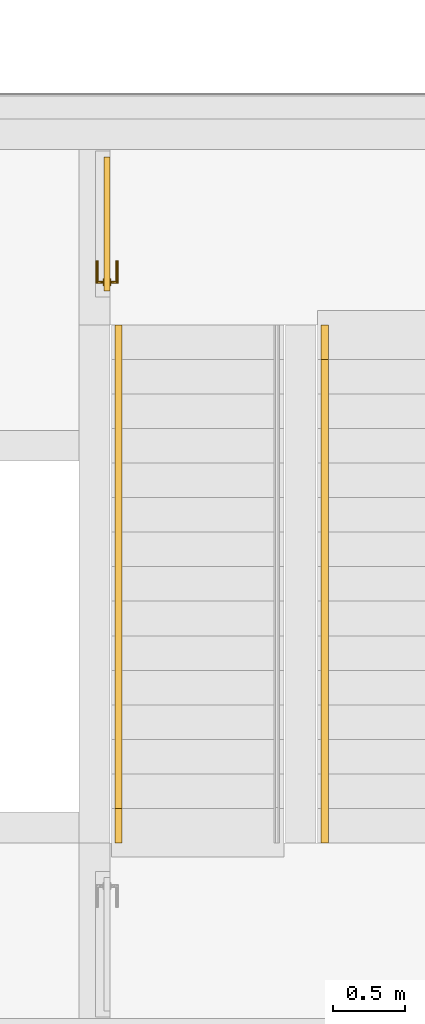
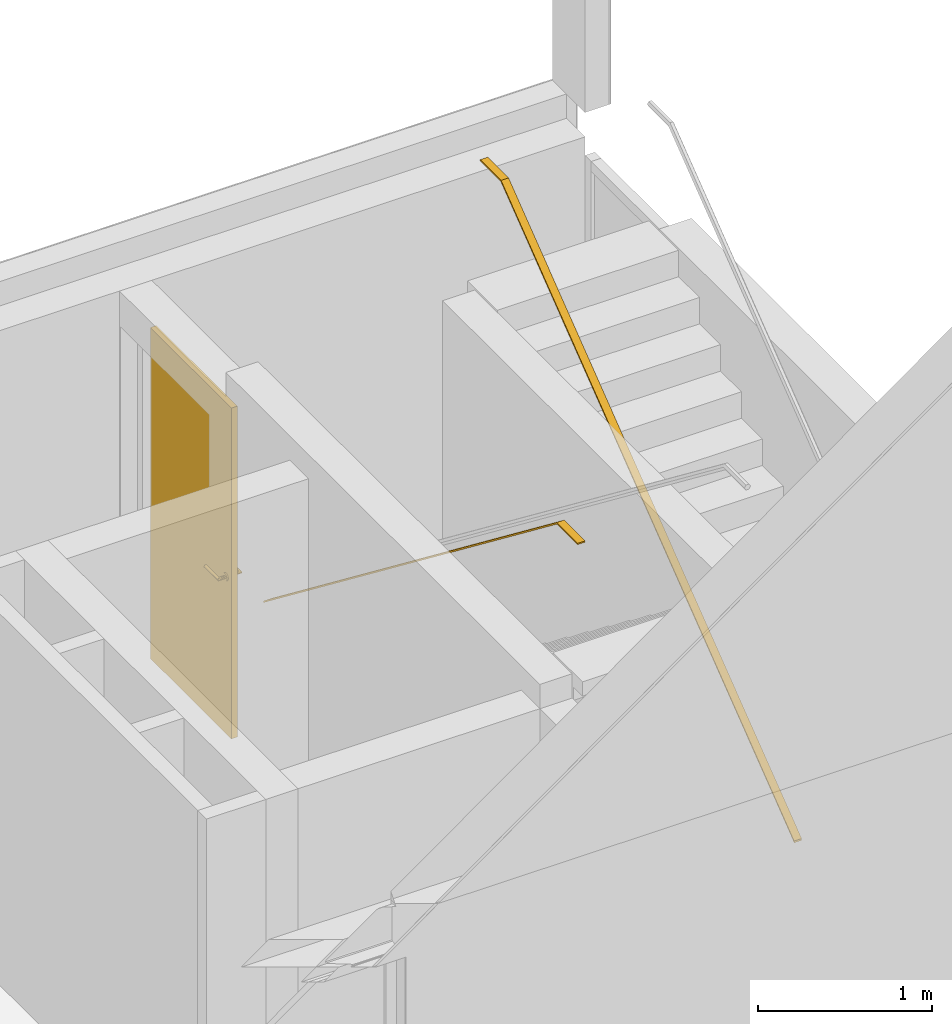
# One storey, part 78 of 99: 2 railings, 1 door, 2 elements without a shape of their own.
"""IFC2X3 building model written with IfcOpenShell, lengths in millimetres."""

from ifc_helpers import new_model, entity, si_unit, converted_unit, derived_unit, money_unit, direction, frame, origin_with_axes, place, context, subcontext, project, spatial, faceted_brep, source, transform, mapped, material, type_object, type_shapes, element, aggregate, save


model = new_model("IFC2X3")

# Units and contexts
model_context = context("Model", 3, precision=0.01, world=origin_with_axes(), true_north=direction((0.0, 1.0)))
body_context = subcontext(model_context, "Body", "Model", "MODEL_VIEW")
ifc_project = project(units=[si_unit("LENGTHUNIT", "METRE", prefix="MILLI"), si_unit("AREAUNIT", "SQUARE_METRE"), si_unit("VOLUMEUNIT", "CUBIC_METRE"), converted_unit("PLANEANGLEUNIT", "DEGREE", entity("IfcPlaneAngleMeasure", 0.0174532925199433), si_unit("PLANEANGLEUNIT", "RADIAN"), dimensions=[0, 0, 0, 0, 0, 0, 0]), money_unit("EUR"), converted_unit("TIMEUNIT", "Year", entity("IfcTimeMeasure", 31557600.0), si_unit("TIMEUNIT", "SECOND"), dimensions=[0, 0, 1, 0, 0, 0, 0]), si_unit("MASSUNIT", "GRAM", prefix="KILO"), si_unit("THERMODYNAMICTEMPERATUREUNIT", "DEGREE_CELSIUS"), si_unit("LUMINOUSINTENSITYUNIT", "LUMEN"), si_unit("ENERGYUNIT", "JOULE", prefix="MEGA"), derived_unit("THERMALCONDUCTANCEUNIT", [(si_unit("POWERUNIT", "WATT"), 1), (si_unit("LENGTHUNIT", "METRE"), -1), (si_unit("THERMODYNAMICTEMPERATUREUNIT", "KELVIN"), -1)]), derived_unit("SPECIFICHEATCAPACITYUNIT", [(si_unit("ENERGYUNIT", "JOULE"), 1), (si_unit("MASSUNIT", "GRAM", prefix="KILO"), -1), (si_unit("THERMODYNAMICTEMPERATUREUNIT", "KELVIN"), -1)]), derived_unit("MASSDENSITYUNIT", [(si_unit("MASSUNIT", "GRAM", prefix="KILO"), 1), (si_unit("VOLUMEUNIT", "CUBIC_METRE"), -1)])], contexts=[model_context])

# Site, building, storey
site_placement = place(None, origin_with_axes())
site = spatial("IfcSite", under=ifc_project, at=site_placement, Name="Site", CompositionType="ELEMENT")
building_placement = place(site_placement, origin_with_axes())
building = spatial("IfcBuilding", under=site, at=building_placement, Name="Naam gebouw", CompositionType="ELEMENT")
storey_placement = place(building_placement, frame((0.0, 0.0, 7650.0), z_axis=(0.0, 0.0, 1.0), x_axis=(1.0, 0.0, 0.0)))
storey = spatial("IfcBuildingStorey", under=building, at=storey_placement, Name="2e verdieping N", CompositionType="ELEMENT", Elevation=7650.0)

# Door
ifc_material_1 = material(Name="<Unnamed>")
door_style = type_object("IfcDoorStyle", Name="NLRS_32_deur stomp dicht_WID:Deur", ConstructionType="NOTDEFINED", OperationType="NOTDEFINED", ParameterTakesPrecedence=False, Sizeable=False)
shared_shape = source(origin_with_axes(), body_context, "Body", "Brep", [
    faceted_brep([(410.0000000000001, 65.96445239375, 1091.33974596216), (407.58819045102, 65.96445239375, 1090.34074173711), (417.5000000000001, 65.96445239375, 1078.34936490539), (410.0000000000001, 74.00000000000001, 1091.33974596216), (407.58819045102, 74.00000000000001, 1090.34074173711), (411.4704761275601, 65.96445239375, 1075.85185434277), (422.6776695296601, 65.96445239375, 1082.32233047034), (412.0710678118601, 65.96445239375, 1092.92893218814), (412.0710678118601, 74.00000000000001, 1092.92893218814), (417.5000000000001, 74.00000000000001, 1078.34936490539), (405.0, 74.00000000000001, 1090.0), (405.0, 65.96445239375, 1090.0), (411.4704761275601, 74.00000000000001, 1075.85185434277), (422.6776695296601, 74.00000000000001, 1082.32233047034), (413.66025403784, 74.00000000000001, 1095.0), (413.66025403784, 65.96445239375, 1095.0), (402.41180954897, 65.96445239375, 1090.34074173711), (402.41180954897, 74.00000000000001, 1090.34074173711), (405.0, 65.96445239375, 1075.0), (405.0, 74.00000000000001, 1075.0), (426.6506350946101, 65.96445239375, 1087.5), (426.6506350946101, 74.00000000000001, 1087.5), (414.65925826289, 65.96445239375, 1097.41180954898), (414.65925826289, 74.00000000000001, 1097.41180954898), (400.0, 74.00000000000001, 1091.33974596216), (400.0, 65.96445239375, 1091.33974596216), (398.52952387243, 65.96445239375, 1075.85185434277), (398.52952387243, 74.00000000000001, 1075.85185434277), (429.14814565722, 65.96445239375, 1093.52952387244), (429.14814565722, 74.00000000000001, 1093.52952387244), (415.0000000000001, 65.96445239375, 1100.0), (415.0000000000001, 74.00000000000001, 1100.0), (397.92893218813, 74.00000000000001, 1092.92893218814), (397.92893218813, 65.96445239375, 1092.92893218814), (392.5, 65.96445239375, 1078.34936490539), (392.5, 74.00000000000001, 1078.34936490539), (430.0000000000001, 65.96445239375, 1100.0), (430.0000000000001, 74.00000000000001, 1100.0), (414.65925826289, 65.96445239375, 1102.58819045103), (414.65925826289, 74.00000000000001, 1102.58819045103), (396.3397459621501, 74.00000000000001, 1095.0), (396.3397459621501, 65.96445239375, 1095.0), (387.32233047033, 65.96445239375, 1082.32233047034), (387.32233047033, 74.00000000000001, 1082.32233047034), (429.14814565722, 74.00000000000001, 1106.47047612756), (429.14814565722, 65.96445239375, 1106.47047612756), (413.66025403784, 65.96445239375, 1105.0), (413.66025403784, 74.00000000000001, 1105.0), (395.34074173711, 65.96445239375, 1097.41180954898), (395.34074173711, 74.00000000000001, 1097.41180954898), (383.3493649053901, 74.00000000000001, 1087.5), (383.3493649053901, 65.96445239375, 1087.5), (426.6506350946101, 74.00000000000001, 1112.5), (426.6506350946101, 65.96445239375, 1112.5), (412.0710678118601, 74.00000000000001, 1107.07106781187), (412.0710678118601, 65.96445239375, 1107.07106781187), (380.8518543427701, 74.00000000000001, 1093.52952387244), (395.0, 65.96445239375, 1100.0), (395.0, 74.00000000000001, 1100.0), (380.8518543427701, 65.96445239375, 1093.52952387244), (422.6776695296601, 74.00000000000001, 1117.67766952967), (422.6776695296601, 65.96445239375, 1117.67766952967), (410.0000000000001, 65.96445239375, 1108.66025403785), (410.0000000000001, 74.00000000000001, 1108.66025403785), (380.0000000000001, 74.00000000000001, 1100.0), (395.34074173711, 74.00000000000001, 1102.58819045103), (395.34074173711, 65.96445239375, 1102.58819045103), (380.0000000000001, 65.96445239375, 1100.0), (417.5000000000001, 65.96445239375, 1121.65063509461), (417.5000000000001, 74.00000000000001, 1121.65063509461), (407.58819045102, 65.96445239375, 1109.65925826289), (407.58819045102, 74.00000000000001, 1109.65925826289), (380.8518543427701, 74.00000000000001, 1106.47047612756), (396.3397459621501, 74.00000000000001, 1105.0), (396.3397459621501, 65.96445239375, 1105.0), (380.8518543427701, 65.96445239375, 1106.47047612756), (411.4704761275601, 65.96445239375, 1124.14814565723), (411.4704761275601, 74.00000000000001, 1124.14814565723), (405.0, 65.96445239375, 1110.0), (405.0, 74.00000000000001, 1110.0), (383.3493649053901, 74.00000000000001, 1112.5), (397.92893218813, 74.00000000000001, 1107.07106781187), (397.92893218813, 65.96445239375, 1107.07106781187), (383.3493649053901, 65.96445239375, 1112.5), (405.0, 65.96445239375, 1125.0), (405.0, 74.00000000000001, 1125.0), (402.41180954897, 65.96445239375, 1109.65925826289), (402.41180954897, 74.00000000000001, 1109.65925826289), (387.32233047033, 74.00000000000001, 1117.67766952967), (400.0, 65.96445239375, 1108.66025403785), (400.0, 74.00000000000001, 1108.66025403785), (387.32233047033, 65.96445239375, 1117.67766952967), (398.52952387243, 74.00000000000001, 1124.14814565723), (398.52952387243, 65.96445239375, 1124.14814565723), (392.5, 74.00000000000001, 1121.65063509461), (392.5, 65.96445239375, 1121.65063509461)], [[[0, 1, 2]], [[1, 0, 3, 4]], [[1, 5, 2]], [[6, 0, 2]], [[0, 7, 8, 3]], [[3, 9, 4]], [[10, 11, 1, 4]], [[5, 1, 11]], [[9, 2, 5, 12]], [[0, 6, 7]], [[9, 13, 6, 2]], [[14, 8, 7, 15]], [[13, 3, 8]], [[13, 9, 3]], [[12, 4, 9]], [[16, 11, 10, 17]], [[4, 12, 10]], [[5, 11, 18]], [[12, 5, 18, 19]], [[6, 20, 7]], [[20, 6, 13, 21]], [[21, 8, 14]], [[7, 20, 15]], [[22, 23, 14, 15]], [[13, 8, 21]], [[16, 18, 11]], [[19, 17, 10]], [[16, 17, 24, 25]], [[10, 12, 19]], [[18, 26, 27, 19]], [[28, 20, 21, 29]], [[21, 14, 29]], [[22, 15, 20]], [[30, 31, 23, 22]], [[23, 29, 14]], [[18, 16, 26]], [[17, 19, 27]], [[17, 27, 24]], [[25, 24, 32, 33]], [[16, 25, 26]], [[26, 34, 35, 27]], [[28, 22, 20]], [[36, 28, 29, 37]], [[30, 38, 39, 31]], [[23, 31, 37]], [[28, 30, 22]], [[37, 29, 23]], [[27, 35, 24]], [[32, 24, 35]], [[32, 40, 41, 33]], [[33, 34, 25]], [[34, 26, 25]], [[34, 42, 43, 35]], [[30, 28, 36]], [[44, 45, 36, 37]], [[38, 30, 36]], [[38, 46, 47, 39]], [[44, 31, 39]], [[31, 44, 37]], [[32, 35, 43]], [[43, 40, 32]], [[48, 41, 40, 49]], [[41, 42, 33]], [[34, 33, 42]], [[50, 43, 42, 51]], [[52, 53, 45, 44]], [[36, 45, 38]], [[38, 45, 46]], [[54, 47, 46, 55]], [[39, 47, 52]], [[44, 39, 52]], [[43, 50, 40]], [[48, 51, 41]], [[56, 49, 40]], [[57, 48, 49, 58]], [[51, 42, 41]], [[50, 51, 59, 56]], [[52, 60, 61, 53]], [[53, 46, 45]], [[54, 52, 47]], [[53, 55, 46]], [[62, 63, 54, 55]], [[56, 40, 50]], [[59, 51, 48]], [[64, 49, 56]], [[59, 48, 57]], [[64, 58, 49]], [[57, 58, 65, 66]], [[56, 59, 67, 64]], [[60, 52, 54]], [[68, 61, 60, 69]], [[61, 55, 53]], [[70, 71, 63, 62]], [[63, 60, 54]], [[61, 62, 55]], [[59, 57, 67]], [[72, 58, 64]], [[72, 65, 58]], [[66, 65, 73, 74]], [[67, 57, 66]], [[67, 75, 72, 64]], [[61, 68, 62]], [[60, 63, 69]], [[76, 68, 69, 77]], [[70, 78, 79, 71]], [[63, 71, 69]], [[62, 68, 70]], [[72, 80, 65]], [[65, 80, 73]], [[73, 81, 82, 74]], [[75, 66, 74]], [[67, 66, 75]], [[75, 83, 80, 72]], [[76, 70, 68]], [[71, 77, 69]], [[84, 76, 77, 85]], [[70, 76, 78]], [[79, 78, 86, 87]], [[77, 71, 79]], [[80, 88, 73]], [[73, 88, 81]], [[89, 82, 81, 90]], [[91, 74, 82]], [[75, 74, 83]], [[83, 91, 88, 80]], [[78, 76, 84]], [[77, 79, 85]], [[92, 93, 84, 85]], [[84, 86, 78]], [[86, 89, 90, 87]], [[87, 85, 79]], [[94, 81, 88]], [[82, 89, 95]], [[81, 94, 90]], [[91, 83, 74]], [[82, 95, 91]], [[94, 88, 91, 95]], [[94, 95, 93, 92]], [[86, 84, 93]], [[85, 87, 92]], [[86, 93, 89]], [[87, 90, 92]], [[93, 95, 89]], [[94, 92, 90]]]),
    faceted_brep([(410.0000000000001, 74.00000000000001, 1091.33974596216), (407.58819045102, 74.00000000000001, 1090.34074173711), (405.0, 74.00000000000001, 1090.0), (402.41180954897, 74.00000000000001, 1090.34074173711), (400.0, 74.00000000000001, 1091.33974596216), (397.92893218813, 74.00000000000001, 1092.92893218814), (396.3397459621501, 74.00000000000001, 1095.0), (395.34074173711, 74.00000000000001, 1097.41180954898), (395.0, 74.00000000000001, 1100.0), (395.34074173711, 74.00000000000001, 1102.58819045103), (396.3397459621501, 74.00000000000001, 1105.0), (397.92893218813, 74.00000000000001, 1107.07106781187), (400.0, 74.00000000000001, 1108.66025403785), (402.41180954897, 74.00000000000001, 1109.65925826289), (405.0, 74.00000000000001, 1110.0), (407.58819045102, 74.00000000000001, 1109.65925826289), (410.0000000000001, 74.00000000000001, 1108.66025403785), (412.0710678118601, 74.00000000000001, 1107.07106781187), (413.66025403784, 74.00000000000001, 1105.0), (414.65925826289, 74.00000000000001, 1102.58819045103), (415.0000000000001, 74.00000000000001, 1100.0), (414.65925826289, 74.00000000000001, 1097.41180954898), (413.66025403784, 74.00000000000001, 1095.0), (412.0710678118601, 74.00000000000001, 1092.92893218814), (405.0, 24.0, 1090.0), (402.41180954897, 26.58819045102, 1090.34074173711), (400.0, 29.0, 1091.33974596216), (397.92893218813, 31.07106781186, 1092.92893218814), (396.3397459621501, 32.66025403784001, 1095.0), (395.34074173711, 33.65925826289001, 1097.41180954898), (395.0, 34.0, 1100.0), (395.34074173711, 33.65925826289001, 1102.58819045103), (396.3397459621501, 32.66025403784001, 1105.0), (397.92893218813, 31.07106781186, 1107.07106781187), (400.0, 29.0, 1108.66025403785), (402.41180954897, 26.58819045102, 1109.65925826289), (405.0, 24.0, 1110.0), (407.58819045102, 21.41180954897, 1109.65925826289), (412.0710678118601, 16.92893218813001, 1107.07106781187), (414.65925826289, 14.34074173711, 1102.58819045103), (415.0000000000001, 14.0, 1100.0), (414.65925826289, 14.34074173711, 1097.41180954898), (412.0710678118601, 16.92893218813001, 1092.92893218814), (407.58819045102, 21.41180954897, 1090.34074173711), (255.0, 32.66025403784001, 1095.0), (255.0, 33.65925826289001, 1097.41180954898), (255.0, 34.0, 1100.0), (255.0, 33.65925826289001, 1102.58819045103), (255.0, 32.66025403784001, 1105.0), (410.0000000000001, 19.0, 1108.66025403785), (413.66025403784, 15.33974596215, 1105.0), (255.0, 14.34074173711, 1102.58819045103), (255.0, 14.0, 1100.0), (255.0, 14.34074173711, 1097.41180954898), (413.66025403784, 15.33974596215, 1095.0), (410.0000000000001, 19.0, 1091.33974596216), (255.0, 26.58819045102, 1090.34074173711), (255.0, 24.0, 1090.0), (255.0, 29.0, 1091.33974596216), (255.0, 31.07106781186, 1092.92893218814), (255.0, 21.41180954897, 1090.34074173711), (255.0, 19.0, 1091.33974596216), (255.0, 16.92893218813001, 1092.92893218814), (255.0, 15.33974596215, 1095.0), (255.0, 15.33974596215, 1105.0), (255.0, 16.92893218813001, 1107.07106781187), (255.0, 19.0, 1108.66025403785), (255.0, 21.41180954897, 1109.65925826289), (255.0, 24.0, 1110.0), (255.0, 26.58819045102, 1109.65925826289), (255.0, 29.0, 1108.66025403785), (255.0, 31.07106781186, 1107.07106781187)], [[[0, 1, 2, 3, 4, 5, 6, 7, 8, 9, 10, 11, 12, 13, 14, 15, 16, 17, 18, 19, 20, 21, 22, 23]], [[24, 1, 0]], [[25, 2, 1]], [[3, 2, 26]], [[27, 4, 3]], [[5, 4, 28]], [[5, 28, 6]], [[28, 29, 7, 6]], [[29, 30, 8, 7]], [[30, 31, 9, 8]], [[31, 32, 10, 9]], [[10, 32, 11]], [[12, 11, 32]], [[33, 13, 12]], [[13, 34, 14]], [[14, 35, 15]], [[16, 15, 36]], [[16, 36, 17]], [[17, 37, 18]], [[19, 18, 38]], [[20, 19, 39, 40]], [[20, 40, 41, 21]], [[42, 22, 21]], [[23, 22, 43]], [[0, 23, 24]], [[1, 24, 25]], [[25, 26, 2]], [[26, 27, 3]], [[27, 28, 4]], [[44, 45, 29, 28]], [[45, 46, 30, 29]], [[46, 47, 31, 30]], [[47, 48, 32, 31]], [[32, 33, 12]], [[33, 34, 13]], [[14, 34, 35]], [[35, 36, 15]], [[37, 17, 36]], [[49, 18, 37]], [[38, 18, 49]], [[38, 50, 19]], [[19, 50, 39]], [[51, 52, 40, 39]], [[52, 53, 41, 40]], [[54, 21, 41]], [[22, 42, 55]], [[54, 42, 21]], [[22, 55, 43]], [[23, 43, 24]], [[56, 25, 24, 57]], [[56, 58, 26, 25]], [[58, 59, 27, 26]], [[59, 44, 28, 27]], [[57, 60, 61, 62, 63, 53, 52, 51, 64, 65, 66, 67, 68, 69, 70, 71, 48, 47, 46, 45, 44, 59, 58, 56]], [[48, 71, 33, 32]], [[71, 70, 34, 33]], [[70, 69, 35, 34]], [[68, 36, 35, 69]], [[37, 36, 68, 67]], [[67, 66, 49, 37]], [[66, 65, 38, 49]], [[65, 64, 50, 38]], [[64, 51, 39, 50]], [[53, 63, 54, 41]], [[62, 61, 55, 42]], [[63, 62, 42, 54]], [[61, 60, 43, 55]], [[60, 57, 24, 43]]]),
    faceted_brep([(417.4999999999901, 122.03554760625, 1078.34936490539), (407.58819045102, 122.03554760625, 1090.34074173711), (410.0000000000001, 122.03554760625, 1091.33974596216), (411.4704761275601, 122.03554760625, 1075.85185434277), (410.0000000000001, 114.0, 1091.33974596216), (407.58819045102, 114.0, 1090.34074173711), (422.6776695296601, 122.03554760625, 1082.32233047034), (411.4704761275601, 114.0, 1075.85185434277), (417.4999999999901, 114.0, 1078.34936490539), (405.0, 122.03554760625, 1090.0), (412.0710678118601, 114.0, 1092.92893218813), (412.0710678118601, 122.03554760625, 1092.92893218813), (405.0, 114.0, 1090.0), (422.6776695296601, 114.0, 1082.32233047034), (405.0, 114.0, 1075.0), (405.0, 122.03554760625, 1075.0), (413.66025403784, 122.03554760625, 1095.0), (413.66025403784, 114.0, 1095.0), (402.41180954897, 114.0, 1090.34074173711), (402.41180954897, 122.03554760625, 1090.34074173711), (426.6506350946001, 122.03554760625, 1087.5), (426.6506350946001, 114.0, 1087.5), (398.52952387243, 114.0, 1075.85185434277), (398.52952387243, 122.03554760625, 1075.85185434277), (414.65925826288, 114.0, 1097.41180954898), (414.65925826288, 122.03554760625, 1097.41180954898), (400.0, 122.03554760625, 1091.33974596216), (400.0, 114.0, 1091.33974596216), (429.14814565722, 114.0, 1093.52952387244), (429.14814565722, 122.03554760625, 1093.52952387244), (392.4999999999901, 114.0, 1078.34936490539), (392.4999999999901, 122.03554760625, 1078.34936490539), (415.0000000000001, 114.0, 1100.0), (415.0000000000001, 122.03554760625, 1100.0), (397.92893218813, 122.03554760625, 1092.92893218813), (397.92893218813, 114.0, 1092.92893218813), (430.0000000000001, 122.03554760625, 1100.0), (430.0000000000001, 114.0, 1100.0), (387.32233047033, 114.0, 1082.32233047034), (387.32233047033, 122.03554760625, 1082.32233047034), (414.65925826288, 114.0, 1102.58819045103), (414.65925826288, 122.03554760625, 1102.58819045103), (396.3397459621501, 122.03554760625, 1095.0), (396.3397459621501, 114.0, 1095.0), (429.14814565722, 122.03554760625, 1106.47047612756), (429.14814565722, 114.0, 1106.47047612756), (383.3493649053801, 114.0, 1087.5), (383.3493649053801, 122.03554760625, 1087.5), (413.66025403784, 114.0, 1105.0), (413.66025403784, 122.03554760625, 1105.0), (395.3407417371, 122.03554760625, 1097.41180954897), (395.3407417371, 114.0, 1097.41180954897), (426.6506350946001, 122.03554760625, 1112.5), (426.6506350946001, 114.0, 1112.5), (380.8518543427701, 114.0, 1093.52952387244), (380.8518543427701, 122.03554760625, 1093.52952387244), (412.0710678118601, 122.03554760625, 1107.07106781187), (412.0710678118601, 114.0, 1107.07106781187), (395.0, 122.03554760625, 1100.0), (395.0, 114.0, 1100.0), (422.6776695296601, 122.03554760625, 1117.67766952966), (422.6776695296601, 114.0, 1117.67766952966), (380.0000000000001, 114.0, 1100.0), (380.0000000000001, 122.03554760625, 1100.0), (410.0000000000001, 114.0, 1108.66025403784), (410.0000000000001, 122.03554760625, 1108.66025403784), (395.3407417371, 122.03554760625, 1102.58819045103), (395.3407417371, 114.0, 1102.58819045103), (417.4999999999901, 114.0, 1121.65063509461), (417.4999999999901, 122.03554760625, 1121.65063509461), (380.8518543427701, 114.0, 1106.47047612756), (380.8518543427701, 122.03554760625, 1106.47047612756), (407.58819045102, 114.0, 1109.65925826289), (407.58819045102, 122.03554760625, 1109.65925826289), (396.3397459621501, 122.03554760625, 1105.0), (396.3397459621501, 114.0, 1105.0), (411.4704761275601, 114.0, 1124.14814565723), (411.4704761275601, 122.03554760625, 1124.14814565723), (383.3493649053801, 114.0, 1112.5), (383.3493649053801, 122.03554760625, 1112.5), (405.0, 114.0, 1110.0), (405.0, 122.03554760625, 1110.0), (397.92893218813, 122.03554760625, 1107.07106781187), (397.92893218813, 114.0, 1107.07106781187), (405.0, 122.03554760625, 1125.0), (405.0, 114.0, 1125.0), (387.32233047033, 114.0, 1117.67766952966), (387.32233047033, 122.03554760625, 1117.67766952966), (402.41180954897, 114.0, 1109.65925826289), (402.41180954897, 122.03554760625, 1109.65925826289), (400.0, 122.03554760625, 1108.66025403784), (400.0, 114.0, 1108.66025403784), (398.52952387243, 122.03554760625, 1124.14814565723), (398.52952387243, 114.0, 1124.14814565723), (392.4999999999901, 114.0, 1121.65063509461), (392.4999999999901, 122.03554760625, 1121.65063509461)], [[[0, 1, 2]], [[0, 3, 1]], [[4, 2, 1, 5]], [[0, 2, 6]], [[7, 3, 0, 8]], [[9, 1, 3]], [[10, 11, 2, 4]], [[5, 1, 9, 12]], [[5, 8, 4]], [[11, 6, 2]], [[6, 13, 8, 0]], [[14, 15, 3, 7]], [[8, 5, 7]], [[15, 9, 3]], [[16, 11, 10, 17]], [[10, 4, 13]], [[18, 12, 9, 19]], [[12, 7, 5]], [[4, 8, 13]], [[11, 20, 6]], [[21, 13, 6, 20]], [[22, 23, 15, 14]], [[14, 7, 12]], [[9, 15, 19]], [[16, 20, 11]], [[17, 10, 21]], [[16, 17, 24, 25]], [[21, 10, 13]], [[12, 18, 14]], [[26, 27, 18, 19]], [[28, 21, 20, 29]], [[22, 30, 31, 23]], [[23, 19, 15]], [[22, 14, 18]], [[20, 16, 25]], [[28, 17, 21]], [[17, 28, 24]], [[25, 24, 32, 33]], [[34, 35, 27, 26]], [[27, 22, 18]], [[23, 26, 19]], [[20, 25, 29]], [[28, 29, 36, 37]], [[27, 30, 22]], [[30, 38, 39, 31]], [[26, 23, 31]], [[24, 28, 37]], [[37, 32, 24]], [[40, 41, 33, 32]], [[25, 33, 29]], [[34, 42, 43, 35]], [[30, 27, 35]], [[26, 31, 34]], [[36, 29, 33]], [[37, 36, 44, 45]], [[38, 30, 35]], [[39, 38, 46, 47]], [[39, 34, 31]], [[37, 45, 32]], [[48, 49, 41, 40]], [[36, 33, 41]], [[40, 32, 45]], [[34, 39, 42]], [[43, 42, 50, 51]], [[35, 43, 38]], [[41, 44, 36]], [[45, 44, 52, 53]], [[43, 46, 38]], [[54, 55, 47, 46]], [[42, 39, 47]], [[56, 49, 48, 57]], [[49, 44, 41]], [[53, 48, 40]], [[53, 40, 45]], [[42, 47, 50]], [[51, 50, 58, 59]], [[43, 51, 54]], [[44, 49, 52]], [[60, 61, 53, 52]], [[46, 43, 54]], [[62, 63, 55, 54]], [[50, 47, 55]], [[49, 56, 52]], [[48, 53, 57]], [[56, 57, 64, 65]], [[58, 50, 55]], [[66, 67, 59, 58]], [[51, 59, 62]], [[54, 51, 62]], [[68, 61, 60, 69]], [[57, 53, 61]], [[52, 56, 60]], [[70, 71, 63, 62]], [[63, 58, 55]], [[57, 61, 64]], [[65, 64, 72, 73]], [[56, 65, 60]], [[74, 75, 67, 66]], [[59, 67, 70]], [[66, 58, 63]], [[62, 59, 70]], [[68, 64, 61]], [[65, 69, 60]], [[76, 68, 69, 77]], [[70, 78, 79, 71]], [[71, 66, 63]], [[68, 72, 64]], [[72, 80, 81, 73]], [[73, 69, 65]], [[74, 82, 83, 75]], [[75, 78, 67]], [[74, 66, 71]], [[67, 78, 70]], [[68, 76, 72]], [[69, 73, 77]], [[76, 77, 84, 85]], [[78, 86, 87, 79]], [[79, 74, 71]], [[80, 72, 76]], [[88, 89, 81, 80]], [[81, 77, 73]], [[82, 74, 87]], [[83, 82, 90, 91]], [[83, 86, 75]], [[75, 86, 78]], [[84, 77, 81]], [[85, 84, 92, 93]], [[85, 80, 76]], [[87, 86, 94, 95]], [[74, 79, 87]], [[91, 90, 89, 88]], [[81, 89, 84]], [[80, 85, 88]], [[87, 95, 82]], [[95, 90, 82]], [[91, 94, 83]], [[86, 83, 94]], [[92, 84, 89]], [[93, 92, 95, 94]], [[93, 88, 85]], [[90, 92, 89]], [[93, 91, 88]], [[90, 95, 92]], [[91, 93, 94]]]),
    faceted_brep([(405.0, 114.0, 1090.0), (407.58819045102, 114.0, 1090.34074173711), (410.0000000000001, 114.0, 1091.33974596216), (412.0710678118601, 114.0, 1092.92893218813), (413.66025403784, 114.0, 1095.0), (414.65925826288, 114.0, 1097.41180954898), (415.0000000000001, 114.0, 1100.0), (414.65925826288, 114.0, 1102.58819045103), (413.66025403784, 114.0, 1105.0), (412.0710678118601, 114.0, 1107.07106781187), (410.0000000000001, 114.0, 1108.66025403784), (407.58819045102, 114.0, 1109.65925826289), (405.0, 114.0, 1110.0), (402.41180954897, 114.0, 1109.65925826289), (400.0, 114.0, 1108.66025403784), (397.92893218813, 114.0, 1107.07106781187), (396.3397459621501, 114.0, 1105.0), (395.3407417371, 114.0, 1102.58819045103), (395.0, 114.0, 1100.0), (395.3407417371, 114.0, 1097.41180954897), (396.3397459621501, 114.0, 1095.0), (397.92893218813, 114.0, 1092.92893218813), (400.0, 114.0, 1091.33974596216), (402.41180954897, 114.0, 1090.34074173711), (402.41180954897, 161.41180954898, 1090.34074173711), (405.0, 164.0, 1090.0), (407.58819045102, 166.58819045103, 1090.34074173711), (412.0710678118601, 171.07106781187, 1092.92893218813), (414.65925826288, 173.65925826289, 1097.41180954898), (415.0000000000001, 174.0, 1100.0), (414.65925826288, 173.65925826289, 1102.58819045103), (412.0710678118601, 171.07106781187, 1107.07106781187), (407.58819045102, 166.58819045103, 1109.65925826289), (405.0, 164.0, 1110.0), (402.41180954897, 161.41180954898, 1109.65925826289), (400.0, 159.0, 1108.66025403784), (397.92893218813, 156.92893218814, 1107.07106781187), (396.3397459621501, 155.33974596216, 1105.0), (395.3407417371, 154.3407417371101, 1102.58819045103), (395.0, 154.0, 1100.0), (395.3407417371, 154.3407417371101, 1097.41180954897), (396.3397459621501, 155.33974596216, 1095.0), (397.92893218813, 156.92893218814, 1092.92893218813), (400.0, 159.0, 1091.33974596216), (410.0000000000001, 169.0, 1091.33974596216), (413.66025403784, 172.66025403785, 1095.0), (255.0, 173.65925826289, 1097.41180954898), (255.0, 174.0, 1100.0), (255.0, 173.65925826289, 1102.58819045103), (413.66025403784, 172.66025403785, 1105.0), (410.0000000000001, 169.0, 1108.66025403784), (255.0, 155.33974596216, 1105.0), (255.0, 154.3407417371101, 1102.58819045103), (255.0, 154.0, 1100.0), (255.0, 154.3407417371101, 1097.41180954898), (255.0, 155.33974596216, 1095.0), (255.0, 159.0, 1091.33974596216), (255.0, 161.41180954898, 1090.34074173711), (255.0, 164.0, 1090.0), (255.0, 166.58819045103, 1090.34074173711), (255.0, 169.0, 1091.33974596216), (255.0, 171.07106781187, 1092.92893218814), (255.0, 172.66025403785, 1095.0), (255.0, 156.92893218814, 1092.92893218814), (255.0, 156.92893218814, 1107.07106781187), (255.0, 159.0, 1108.66025403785), (255.0, 161.41180954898, 1109.65925826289), (255.0, 164.0, 1110.0), (255.0, 166.58819045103, 1109.65925826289), (255.0, 169.0, 1108.66025403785), (255.0, 171.07106781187, 1107.07106781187), (255.0, 172.66025403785, 1105.0)], [[[0, 1, 2, 3, 4, 5, 6, 7, 8, 9, 10, 11, 12, 13, 14, 15, 16, 17, 18, 19, 20, 21, 22, 23]], [[1, 0, 24]], [[2, 1, 25]], [[25, 3, 2]], [[26, 4, 3]], [[5, 4, 27]], [[28, 29, 6, 5]], [[29, 30, 7, 6]], [[31, 8, 7]], [[8, 32, 9]], [[9, 33, 10]], [[33, 11, 10]], [[11, 34, 12]], [[12, 35, 13]], [[14, 13, 36]], [[37, 15, 14]], [[15, 37, 16]], [[16, 37, 38, 17]], [[18, 17, 38, 39]], [[19, 18, 39, 40]], [[20, 19, 40, 41]], [[20, 41, 21]], [[41, 22, 21]], [[23, 22, 42]], [[43, 0, 23]], [[0, 43, 24]], [[24, 25, 1]], [[25, 26, 3]], [[26, 44, 4]], [[44, 27, 4]], [[5, 27, 45]], [[28, 46, 47, 29]], [[28, 5, 45]], [[30, 29, 47, 48]], [[30, 49, 7]], [[50, 8, 31]], [[7, 49, 31]], [[32, 8, 50]], [[33, 9, 32]], [[11, 33, 34]], [[34, 35, 12]], [[13, 35, 36]], [[14, 36, 37]], [[38, 37, 51, 52]], [[39, 38, 52, 53]], [[39, 53, 54, 40]], [[40, 54, 55, 41]], [[22, 41, 42]], [[23, 42, 43]], [[43, 56, 57, 24]], [[58, 25, 24, 57]], [[26, 25, 58, 59]], [[26, 59, 60, 44]], [[44, 60, 61, 27]], [[27, 61, 62, 45]], [[45, 62, 46, 28]], [[60, 59, 58, 57, 56, 63, 55, 54, 53, 52, 51, 64, 65, 66, 67, 68, 69, 70, 71, 48, 47, 46, 62, 61]], [[49, 30, 48, 71]], [[50, 31, 70, 69]], [[31, 49, 71, 70]], [[32, 50, 69, 68]], [[68, 67, 33, 32]], [[34, 33, 67, 66]], [[35, 34, 66, 65]], [[36, 35, 65, 64]], [[37, 36, 64, 51]], [[41, 55, 63, 42]], [[42, 63, 56, 43]]]),
    faceted_brep([(465.0, 114.0, 0.0), (465.0, 74.00000000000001, 0.0), (-465.0, 74.00000000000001, 0.0), (-465.0, 114.0, 0.0), (465.0, 114.0, 2315.0), (465.0, 74.00000000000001, 2315.0), (-465.0, 74.00000000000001, 2315.0), (-465.0, 114.0, 2315.0)], [[[0, 1, 2, 3]], [[4, 5, 1, 0]], [[5, 6, 2, 1]], [[6, 7, 3, 2]], [[7, 4, 0, 3]], [[4, 7, 6, 5]]]),
])
type_shapes(door_style, [shared_shape])
door_placement = place(storey_placement, frame((33599.00000004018, 38448.91242636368, -1729.99999999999), z_axis=(0.0, 0.0, 1.0), x_axis=(0.0, -1.0, 0.0)))
element("IfcDoor", 1, at=door_placement, inside=storey, type_object=door_style, material=ifc_material_1, Name="NLRS_32_deur stomp dicht_WID:Deur", ObjectType="DOOR", context=body_context, shape_type="MappedRepresentation", body=[
    mapped(shared_shape, transform((0.0, 0.0, 0.0))),
])

# Stair, railing
stair_1_placement = place(storey_placement, frame((0.0, 0.0, -7650.0), z_axis=(0.0, 0.0, 1.0), x_axis=(1.0, 0.0, 0.0)))
stair_1 = element("IfcStair", 2, at=stair_1_placement, inside=storey, Name="Precast Stair:Stair", ObjectType="Precast Stair:24_trap - prefab", ShapeType="NOTDEFINED")
ifc_material_2 = material(Name="baluster_staal")
railing_type = type_object("IfcRailingType", Name="Railing:44_3B_leuning - staal 50x10mm", PredefinedType="NOTDEFINED")
railing_1_placement = place(stair_1_placement, frame((35232.0000000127, 34145.91242629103, 6992.049041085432), z_axis=(0.0, 0.0, 1.0), x_axis=(0.0, 1.0, 0.0)))
railing_1 = element("IfcRailing", 3, at=railing_1_placement, type_object=railing_type, material=ifc_material_2, Name="Railing:44_3B_leuning - staal 50x10mm", PredefinedType="NOTDEFINED", context=body_context, shape_type="Brep", body=[
    faceted_brep([(0.0, 50.0, 12.61762558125), (0.0, 50.0, 0.0), (0.0, 0.0, 0.0), (0.0, 0.0, 12.61762558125), (3360.0, 50.0, 2597.95095891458), (3363.40196826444, 50.0, 2587.95095891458), (3363.40196826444, 0.0, 2587.95095891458), (3360.0, 0.0, 2597.95095891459), (3600.0, 50.0, 2597.95095891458), (3600.0, 50.0, 2587.95095891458), (3600.0, 0.0, 2587.95095891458), (3600.0, 0.0, 2597.95095891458)], [[[0, 1, 2, 3]], [[1, 0, 4, 5]], [[2, 1, 5, 6]], [[3, 2, 6, 7]], [[0, 3, 7, 4]], [[5, 4, 8, 9]], [[6, 5, 9, 10]], [[7, 6, 10, 11]], [[4, 7, 11, 8]], [[8, 11, 10, 9]]]),
])
aggregate(stair_1, [railing_1])

stair_2_placement = place(storey_placement, frame((0.0, 0.0, -7650.0), z_axis=(0.0, 0.0, 1.0), x_axis=(1.0, 0.0, 0.0)))
stair_2 = element("IfcStair", 4, at=stair_2_placement, inside=storey, Name="Precast Stair:Stair", ObjectType="Precast Stair:24_trap - prefab", ShapeType="NOTDEFINED")
railing_2_placement = place(stair_2_placement, frame((33798.00000006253, 34145.91242629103, 6992.049041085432), z_axis=(0.0, 0.0, 1.0), x_axis=(0.0, 1.0, 0.0)))
railing_2 = element("IfcRailing", 5, at=railing_2_placement, type_object=railing_type, material=ifc_material_2, Name="Railing:44_3B_leuning - staal 50x10mm", PredefinedType="NOTDEFINED", context=body_context, shape_type="Brep", body=[
    faceted_brep([(3600.0, 50.0, 12.61762558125), (3600.0, 0.0, 12.61762558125), (3600.0, 0.0, 0.0), (3600.0, 50.0, 0.0), (240.0, 50.0, 2597.95095891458), (240.0, 0.0, 2597.95095891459), (236.5980317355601, 0.0, 2587.95095891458), (236.5980317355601, 50.0, 2587.95095891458), (0.0, 50.0, 2597.95095891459), (0.0, 0.0, 2597.95095891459), (0.0, 0.0, 2587.95095891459), (0.0, 50.0, 2587.95095891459)], [[[0, 1, 2, 3]], [[1, 0, 4, 5]], [[2, 1, 5, 6]], [[3, 2, 6, 7]], [[0, 3, 7, 4]], [[5, 4, 8, 9]], [[6, 5, 9, 10]], [[7, 6, 10, 11]], [[4, 7, 11, 8]], [[8, 11, 10, 9]]]),
])
aggregate(stair_2, [railing_2])

save(model, "model.ifc")
